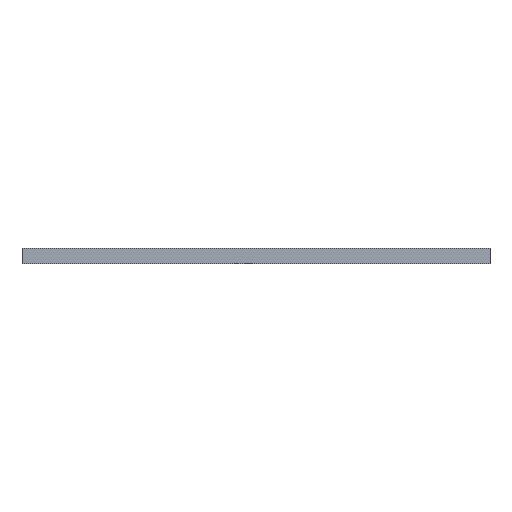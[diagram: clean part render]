
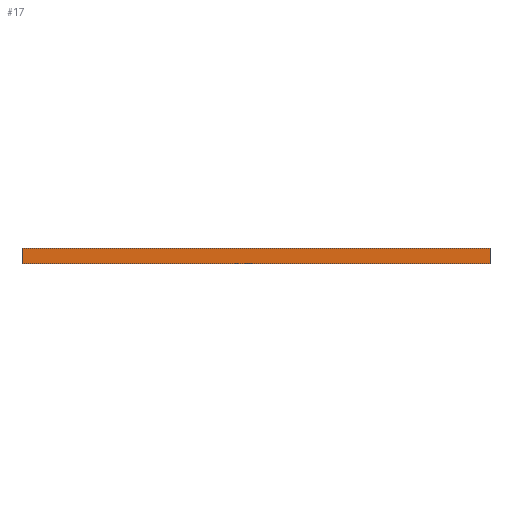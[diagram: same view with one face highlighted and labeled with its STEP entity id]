
A CAD part, left-side view. The second image highlights one B-rep face of the part: STEP entity #17.
In plain terms, the highlighted planar face has unit normal (-1, 0, 0).
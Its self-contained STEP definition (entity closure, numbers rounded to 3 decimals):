
#17 = ADVANCED_FACE('',(#18),#32,.F.);
#18 = FACE_BOUND('',#19,.F.);
#19 = EDGE_LOOP('',(#20,#55,#83,#111));
#20 = ORIENTED_EDGE('',*,*,#21,.F.);
#21 = EDGE_CURVE('',#22,#24,#26,.T.);
#22 = VERTEX_POINT('',#23);
#23 = CARTESIAN_POINT('',(0.,0.,0.));
#24 = VERTEX_POINT('',#25);
#25 = CARTESIAN_POINT('',(0.,0.,3.));
#26 = SURFACE_CURVE('',#27,(#31,#43),.PCURVE_S1.);
#27 = LINE('',#28,#29);
#28 = CARTESIAN_POINT('',(0.,0.,0.));
#29 = VECTOR('',#30,1.);
#30 = DIRECTION('',(0.,0.,1.));
#31 = PCURVE('',#32,#37);
#32 = PLANE('',#33);
#33 = AXIS2_PLACEMENT_3D('',#34,#35,#36);
#34 = CARTESIAN_POINT('',(0.,0.,0.));
#35 = DIRECTION('',(1.,0.,0.));
#36 = DIRECTION('',(0.,0.,1.));
#37 = DEFINITIONAL_REPRESENTATION('',(#38),#42);
#38 = LINE('',#39,#40);
#39 = CARTESIAN_POINT('',(0.,0.));
#40 = VECTOR('',#41,1.);
#41 = DIRECTION('',(1.,0.));
#42 = ( GEOMETRIC_REPRESENTATION_CONTEXT(2) 
PARAMETRIC_REPRESENTATION_CONTEXT() REPRESENTATION_CONTEXT('2D SPACE',''
  ) );
#43 = PCURVE('',#44,#49);
#44 = PLANE('',#45);
#45 = AXIS2_PLACEMENT_3D('',#46,#47,#48);
#46 = CARTESIAN_POINT('',(0.,0.,0.));
#47 = DIRECTION('',(0.,1.,0.));
#48 = DIRECTION('',(0.,0.,1.));
#49 = DEFINITIONAL_REPRESENTATION('',(#50),#54);
#50 = LINE('',#51,#52);
#51 = CARTESIAN_POINT('',(0.,0.));
#52 = VECTOR('',#53,1.);
#53 = DIRECTION('',(1.,0.));
#54 = ( GEOMETRIC_REPRESENTATION_CONTEXT(2) 
PARAMETRIC_REPRESENTATION_CONTEXT() REPRESENTATION_CONTEXT('2D SPACE',''
  ) );
#55 = ORIENTED_EDGE('',*,*,#56,.T.);
#56 = EDGE_CURVE('',#22,#57,#59,.T.);
#57 = VERTEX_POINT('',#58);
#58 = CARTESIAN_POINT('',(0.,90.,0.));
#59 = SURFACE_CURVE('',#60,(#64,#71),.PCURVE_S1.);
#60 = LINE('',#61,#62);
#61 = CARTESIAN_POINT('',(0.,0.,0.));
#62 = VECTOR('',#63,1.);
#63 = DIRECTION('',(0.,1.,0.));
#64 = PCURVE('',#32,#65);
#65 = DEFINITIONAL_REPRESENTATION('',(#66),#70);
#66 = LINE('',#67,#68);
#67 = CARTESIAN_POINT('',(0.,0.));
#68 = VECTOR('',#69,1.);
#69 = DIRECTION('',(0.,-1.));
#70 = ( GEOMETRIC_REPRESENTATION_CONTEXT(2) 
PARAMETRIC_REPRESENTATION_CONTEXT() REPRESENTATION_CONTEXT('2D SPACE',''
  ) );
#71 = PCURVE('',#72,#77);
#72 = PLANE('',#73);
#73 = AXIS2_PLACEMENT_3D('',#74,#75,#76);
#74 = CARTESIAN_POINT('',(0.,0.,0.));
#75 = DIRECTION('',(0.,0.,1.));
#76 = DIRECTION('',(1.,0.,0.));
#77 = DEFINITIONAL_REPRESENTATION('',(#78),#82);
#78 = LINE('',#79,#80);
#79 = CARTESIAN_POINT('',(0.,0.));
#80 = VECTOR('',#81,1.);
#81 = DIRECTION('',(0.,1.));
#82 = ( GEOMETRIC_REPRESENTATION_CONTEXT(2) 
PARAMETRIC_REPRESENTATION_CONTEXT() REPRESENTATION_CONTEXT('2D SPACE',''
  ) );
#83 = ORIENTED_EDGE('',*,*,#84,.T.);
#84 = EDGE_CURVE('',#57,#85,#87,.T.);
#85 = VERTEX_POINT('',#86);
#86 = CARTESIAN_POINT('',(0.,90.,3.));
#87 = SURFACE_CURVE('',#88,(#92,#99),.PCURVE_S1.);
#88 = LINE('',#89,#90);
#89 = CARTESIAN_POINT('',(0.,90.,0.));
#90 = VECTOR('',#91,1.);
#91 = DIRECTION('',(0.,0.,1.));
#92 = PCURVE('',#32,#93);
#93 = DEFINITIONAL_REPRESENTATION('',(#94),#98);
#94 = LINE('',#95,#96);
#95 = CARTESIAN_POINT('',(0.,-90.));
#96 = VECTOR('',#97,1.);
#97 = DIRECTION('',(1.,0.));
#98 = ( GEOMETRIC_REPRESENTATION_CONTEXT(2) 
PARAMETRIC_REPRESENTATION_CONTEXT() REPRESENTATION_CONTEXT('2D SPACE',''
  ) );
#99 = PCURVE('',#100,#105);
#100 = PLANE('',#101);
#101 = AXIS2_PLACEMENT_3D('',#102,#103,#104);
#102 = CARTESIAN_POINT('',(0.,90.,0.));
#103 = DIRECTION('',(0.,1.,0.));
#104 = DIRECTION('',(0.,0.,1.));
#105 = DEFINITIONAL_REPRESENTATION('',(#106),#110);
#106 = LINE('',#107,#108);
#107 = CARTESIAN_POINT('',(0.,0.));
#108 = VECTOR('',#109,1.);
#109 = DIRECTION('',(1.,0.));
#110 = ( GEOMETRIC_REPRESENTATION_CONTEXT(2) 
PARAMETRIC_REPRESENTATION_CONTEXT() REPRESENTATION_CONTEXT('2D SPACE',''
  ) );
#111 = ORIENTED_EDGE('',*,*,#112,.F.);
#112 = EDGE_CURVE('',#24,#85,#113,.T.);
#113 = SURFACE_CURVE('',#114,(#118,#125),.PCURVE_S1.);
#114 = LINE('',#115,#116);
#115 = CARTESIAN_POINT('',(0.,0.,3.));
#116 = VECTOR('',#117,1.);
#117 = DIRECTION('',(0.,1.,0.));
#118 = PCURVE('',#32,#119);
#119 = DEFINITIONAL_REPRESENTATION('',(#120),#124);
#120 = LINE('',#121,#122);
#121 = CARTESIAN_POINT('',(3.,0.));
#122 = VECTOR('',#123,1.);
#123 = DIRECTION('',(0.,-1.));
#124 = ( GEOMETRIC_REPRESENTATION_CONTEXT(2) 
PARAMETRIC_REPRESENTATION_CONTEXT() REPRESENTATION_CONTEXT('2D SPACE',''
  ) );
#125 = PCURVE('',#126,#131);
#126 = PLANE('',#127);
#127 = AXIS2_PLACEMENT_3D('',#128,#129,#130);
#128 = CARTESIAN_POINT('',(0.,0.,3.));
#129 = DIRECTION('',(0.,0.,1.));
#130 = DIRECTION('',(1.,0.,0.));
#131 = DEFINITIONAL_REPRESENTATION('',(#132),#136);
#132 = LINE('',#133,#134);
#133 = CARTESIAN_POINT('',(0.,0.));
#134 = VECTOR('',#135,1.);
#135 = DIRECTION('',(0.,1.));
#136 = ( GEOMETRIC_REPRESENTATION_CONTEXT(2) 
PARAMETRIC_REPRESENTATION_CONTEXT() REPRESENTATION_CONTEXT('2D SPACE',''
  ) );
